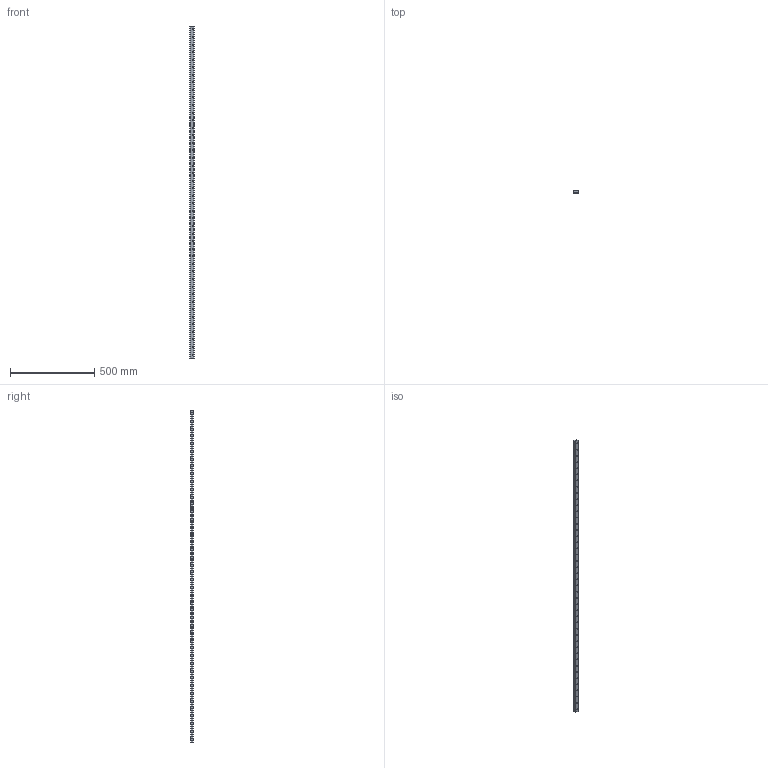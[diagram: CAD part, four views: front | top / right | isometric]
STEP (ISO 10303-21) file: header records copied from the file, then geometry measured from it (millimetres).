
FILE_DESCRIPTION(('STEP AP203'),'1');
FILE_NAME('track_ft2412l1976p2b.stp','2022-07-04T01:30:44',('TraceParts'),('TraceParts S.A.'),'Spatial InterOp 3D',' ',' ');
FILE_SCHEMA(('CONFIG_CONTROL_DESIGN'));
Length unit declared in the file: millimetre
Products named in the file (1): 1
Bounding box: 24 x 12.4 x 1976 mm (x, y, z)
Volume: 560940.4 mm3; surface area: 153156.1 mm2
Topology: 1 solids, 1 shells, 230 faces, 552 edges, 368 vertices
Faces by surface type: cylinder 176, plane 54
Entity records: 7108 total; most frequent: DIRECTION 1366, CARTESIAN_POINT 1151, ORIENTED_EDGE 1104, AXIS2_PLACEMENT_3D 583, EDGE_CURVE 552, VERTEX_POINT 368, EDGE_LOOP 362, CIRCLE 352
